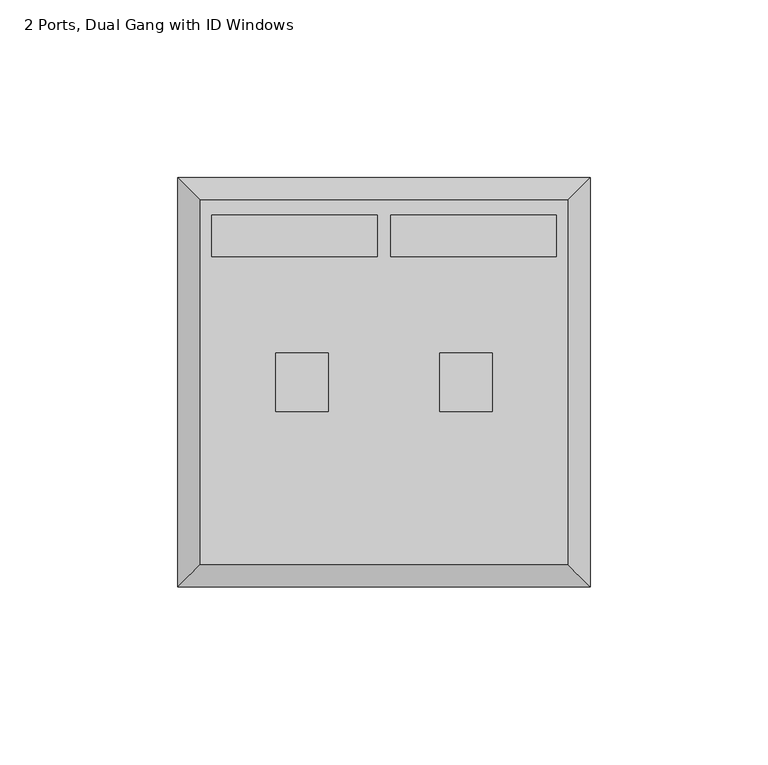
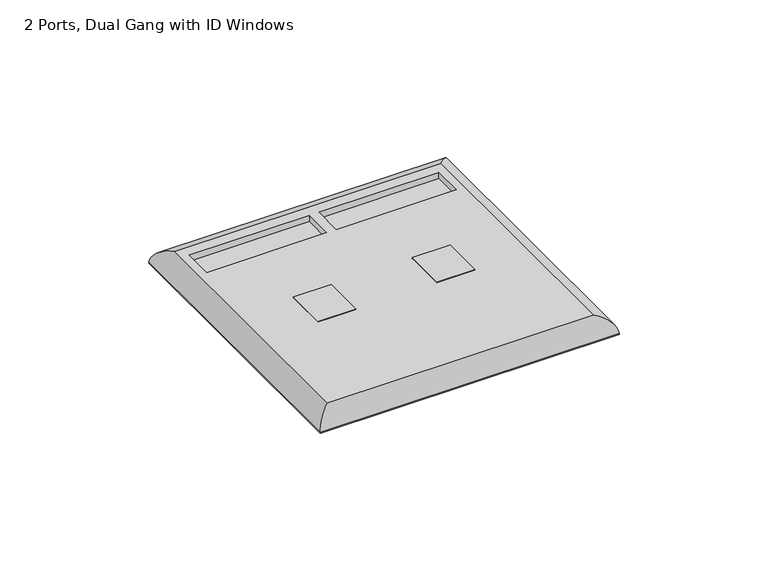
"""IFC4 building model written with IfcOpenShell, lengths in millimetres: electric appliance geometry, Data_Device-Work_Area-Leviton-QuickPort-Wallplate : 2 Ports, Dual Gang with ID Windows."""

from ifc_helpers import new_model, si_unit, frame, origin, origin_with_axes, place, context, project, spatial, polyline, ellipse_curve, outline, extrude, source, transform, mapped, element, save
from ifc_brep_helpers import plane_surface, cylinder_surface, advanced_brep


def electric_appliance_2_ports_dual_gang_with_id_windows_aa394248(model_context):
    return source(origin(), model_context, "Body", "SolidModel", [
        extrude(outline(polyline([(-38.6842, 16.4465), (-38.6842, -0.0635), (-53.4162, -0.0635), (-53.4162, 16.4465), (-38.6842, 16.4465)])), origin_with_axes(), (0.0, 0.0, 1.0), 6.35),
        extrude(outline(polyline([(7.366, 16.4465), (7.366, -0.0635), (-7.366, -0.0635), (-7.366, 16.4465), (7.366, 16.4465)])), origin_with_axes(), (0.0, 0.0, 1.0), 6.35),
        advanced_brep(
        [(28.575, -42.9895, 6.35), (28.575, 59.3725, 6.35), (-74.6252, 59.3725, 6.35), (-74.6252, -42.9895, 6.35), (-71.44004, 55.1815, 6.35), (-24.95804, 55.1815, 6.35), (-24.95804, 43.4975, 6.35), (-71.44004, 43.4975, 6.35), (-21.09216, 43.4975, 6.35), (-21.09216, 55.1815, 6.35), (25.38984, 55.1815, 6.35), (25.38984, 43.4975, 6.35), (-53.4162, 16.4465, 6.35), (-38.6842, 16.4465, 6.35), (-38.6842, -0.0635, 6.35), (-53.4162, -0.0635, 6.35), (-7.366, 16.4465, 6.35), (7.366, 16.4465, 6.35), (7.366, -0.0635, 6.35), (-7.366, -0.0635, 6.35), (34.925, 65.7225, 0.0), (34.925, -49.3395, 0.0), (-80.9752, -49.3395, 0.0), (-80.9752, 65.7225, 0.0), (-38.6842, 16.4465, 0.0), (-53.4162, 16.4465, 0.0), (-53.4162, -0.0635, 0.0), (-38.6842, -0.0635, 0.0), (7.366, 16.4465, 0.0), (-7.366, 16.4465, 0.0), (-7.366, -0.0635, 0.0), (7.366, -0.0635, 0.0), (-80.9752, 65.7225, 0.254), (34.925, 65.7225, 0.254), (-80.9752, -49.3395, 0.254), (34.925, -49.3395, 0.254), (-24.95804, 55.1815, 3.81), (-71.44004, 55.1815, 3.81), (-71.44004, 43.4975, 3.81), (-24.95804, 43.4975, 3.81), (-21.09216, 55.1815, 3.81), (-21.09216, 43.4975, 3.81), (25.38984, 43.4975, 3.81), (25.38984, 55.1815, 3.81)],
        [
            (0, 1),
            (1, 2),
            (2, 3),
            (3, 0),
            (4, 5),
            (5, 6),
            (6, 7),
            (7, 4),
            (8, 9),
            (9, 10),
            (10, 11),
            (11, 8),
            (12, 13),
            (13, 14),
            (14, 15),
            (15, 12),
            (16, 17),
            (17, 18),
            (18, 19),
            (19, 16),
            (20, 21),
            (21, 22),
            (22, 23),
            (23, 20),
            (24, 25),
            (25, 26),
            (26, 27),
            (27, 24),
            (28, 29),
            (29, 30),
            (30, 31),
            (31, 28),
            (23, 32),
            (32, 33),
            (33, 20),
            (22, 34),
            (34, 32),
            (21, 35),
            (35, 34),
            (33, 35),
            (36, 37),
            (37, 38),
            (38, 39),
            (39, 36),
            (40, 41),
            (41, 42),
            (42, 43),
            (43, 40),
            (36, 5),
            (4, 37),
            (7, 38),
            (6, 39),
            (40, 9),
            (8, 41),
            (11, 42),
            (10, 43),
            (12, 25),
            (24, 13),
            (15, 26),
            (14, 27),
            (16, 29),
            (28, 17),
            (19, 30),
            (18, 31),
            (0, 35, ellipse_curve(frame((28.575, -42.9895, -0.0052917), z_axis=(0.7071067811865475, 0.7071067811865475, 0.0), x_axis=(0.7071067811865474, -0.7071067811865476, 0.0)), 8.9877397, 6.3552917)),
            (33, 1, ellipse_curve(frame((28.575, 59.3725, -0.0052917), z_axis=(0.7071067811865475, -0.7071067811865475, 0.0), x_axis=(-0.7071067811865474, -0.7071067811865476, 0.0)), 8.9877397, 6.3552917)),
            (3, 34, ellipse_curve(frame((-74.6252, -42.9895, -0.0052917), z_axis=(0.7071067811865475, -0.7071067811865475, 0.0), x_axis=(-0.7071067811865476, -0.7071067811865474, 0.0)), 8.9877397, 6.3552917)),
            (2, 32, ellipse_curve(frame((-74.6252, 59.3725, -0.0052917), z_axis=(-0.7071067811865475, -0.7071067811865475, 0.0), x_axis=(-0.7071067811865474, 0.7071067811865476, 0.0)), 8.9877397, 6.3552917)),
        ],
        [
            plane_surface(frame((-80.9752, 65.7225, 6.35), z_axis=(0.0, 0.0, 1.0), x_axis=(-1.0, 0.0, 0.0))),
            plane_surface(frame((-80.9752, 65.7225, 0.0), z_axis=(0.0, 0.0, -1.0), x_axis=(1.0, 0.0, 0.0))),
            plane_surface(frame((34.925, 65.7225, 6.35), z_axis=(0.0, 1.0, 0.0), x_axis=(0.0, 0.0, -1.0))),
            plane_surface(frame((-80.9752, 65.7225, 6.35), z_axis=(-1.0, 0.0, 0.0), x_axis=(0.0, 0.0, -1.0))),
            plane_surface(frame((-80.9752, -49.3395, 6.35), z_axis=(0.0, -1.0, 0.0), x_axis=(0.0, 0.0, -1.0))),
            plane_surface(frame((34.925, -49.3395, 6.35), z_axis=(1.0, 0.0, 0.0), x_axis=(0.0, 0.0, -1.0))),
            plane_surface(frame((-71.44004, 55.1815, 3.81), z_axis=(0.0, 0.0, 1.0), x_axis=(1.0, 0.0, 0.0))),
            plane_surface(frame((-24.95804, 55.1815, 6.35), z_axis=(0.0, -1.0, 0.0), x_axis=(0.0, 0.0, -1.0))),
            plane_surface(frame((-71.44004, 55.1815, 6.35), z_axis=(1.0, 0.0, 0.0), x_axis=(0.0, 0.0, -1.0))),
            plane_surface(frame((-71.44004, 43.4975, 6.35), z_axis=(0.0, 1.0, 0.0), x_axis=(0.0, 0.0, -1.0))),
            plane_surface(frame((-24.95804, 43.4975, 6.35), z_axis=(-1.0, 0.0, 0.0), x_axis=(0.0, 0.0, -1.0))),
            plane_surface(frame((-21.09216, 55.1815, 6.35), z_axis=(1.0, 0.0, 0.0), x_axis=(0.0, 0.0, -1.0))),
            plane_surface(frame((-21.09216, 43.4975, 6.35), z_axis=(0.0, 1.0, 0.0), x_axis=(0.0, 0.0, -1.0))),
            plane_surface(frame((25.38984, 43.4975, 6.35), z_axis=(-1.0, 0.0, 0.0), x_axis=(0.0, 0.0, -1.0))),
            plane_surface(frame((25.38984, 55.1815, 6.35), z_axis=(0.0, -1.0, 0.0), x_axis=(0.0, 0.0, -1.0))),
            plane_surface(frame((-38.6842, 16.4465, 6.35), z_axis=(0.0, -1.0, 0.0), x_axis=(0.0, 0.0, -1.0))),
            plane_surface(frame((-53.4162, 16.4465, 6.35), z_axis=(1.0, 0.0, 0.0), x_axis=(0.0, 0.0, -1.0))),
            plane_surface(frame((-53.4162, -0.0635, 6.35), z_axis=(0.0, 1.0, 0.0), x_axis=(0.0, 0.0, -1.0))),
            plane_surface(frame((-38.6842, -0.0635, 6.35), z_axis=(-1.0, 0.0, 0.0), x_axis=(0.0, 0.0, -1.0))),
            plane_surface(frame((7.366, 16.4465, 6.35), z_axis=(0.0, -1.0, 0.0), x_axis=(0.0, 0.0, -1.0))),
            plane_surface(frame((-7.366, 16.4465, 6.35), z_axis=(1.0, 0.0, 0.0), x_axis=(0.0, 0.0, -1.0))),
            plane_surface(frame((-7.366, -0.0635, 6.35), z_axis=(0.0, 1.0, 0.0), x_axis=(0.0, 0.0, -1.0))),
            plane_surface(frame((7.366, -0.0635, 6.35), z_axis=(-1.0, 0.0, 0.0), x_axis=(0.0, 0.0, -1.0))),
            cylinder_surface(frame((28.575, 65.7225, -0.0052917), z_axis=(0.0, -1.0, 0.0), x_axis=(1.0, 0.0, 0.0)), 6.3552917),
            cylinder_surface(frame((34.925, -42.9895, -0.0052917), z_axis=(-1.0, 0.0, 0.0), x_axis=(0.0, -1.0, 0.0)), 6.3552917),
            cylinder_surface(frame((-74.6252, -49.3395, -0.0052917), z_axis=(0.0, 1.0, 0.0), x_axis=(-1.0, 0.0, 0.0)), 6.3552917),
            cylinder_surface(frame((-80.9752, 59.3725, -0.0052917), z_axis=(1.0, 0.0, 0.0), x_axis=(0.0, 1.0, 0.0)), 6.3552917),
        ],
        [
            (0, [[1, 2, 3, 4], [5, 6, 7, 8], [9, 10, 11, 12], [13, 14, 15, 16], [17, 18, 19, 20]]),
            (1, [[21, 22, 23, 24], [25, 26, 27, 28], [29, 30, 31, 32]]),
            (2, [[-24, 33, 34, 35]]),
            (3, [[-23, 36, 37, -33]]),
            (4, [[-22, 38, 39, -36]]),
            (5, [[-21, -35, 40, -38]]),
            (6, [[41, 42, 43, 44]]),
            (6, [[45, 46, 47, 48]]),
            (7, [[-41, 49, -5, 50]]),
            (8, [[-42, -50, -8, 51]]),
            (9, [[-43, -51, -7, 52]]),
            (10, [[-44, -52, -6, -49]]),
            (11, [[-45, 53, -9, 54]]),
            (12, [[-46, -54, -12, 55]]),
            (13, [[-47, -55, -11, 56]]),
            (14, [[-48, -56, -10, -53]]),
            (15, [[57, -25, 58, -13]]),
            (16, [[-57, -16, 59, -26]]),
            (17, [[-59, -15, 60, -27]]),
            (18, [[-58, -28, -60, -14]]),
            (19, [[61, -29, 62, -17]]),
            (20, [[-61, -20, 63, -30]]),
            (21, [[-63, -19, 64, -31]]),
            (22, [[-62, -32, -64, -18]]),
            (23, [[65, -40, 66, -1]]),
            (24, [[-65, -4, 67, -39]]),
            (25, [[-67, -3, 68, -37]]),
            (26, [[-66, -34, -68, -2]]),
        ],
    ),
        extrude(outline(polyline([(34.671, 65.4685), (34.671, -49.0855), (-80.7212, -49.0855), (-80.7212, 65.4685), (34.671, 65.4685)])), origin_with_axes(), (0.0, 0.0, 1.0), 0.254),
    ])


if __name__ == "__main__":
    model = new_model("IFC4")
    model_context = context("Model", 3, world=origin())
    ifc_project = project(units=[si_unit("LENGTHUNIT", "METRE", prefix="MILLI")], contexts=[model_context])
    site = spatial("IfcSite", under=ifc_project)
    building = spatial("IfcBuilding", under=site)
    placement = place(None, origin())
    electric_appliance_2_ports_dual_gang_with_id_windows_shape = electric_appliance_2_ports_dual_gang_with_id_windows_aa394248(model_context)
    element("IfcElectricAppliance", 1, ObjectType="Data_Device-Work_Area-Leviton-QuickPort-Wallplate : 2 Ports, Dual Gang with ID Windows", at=placement, inside=building, context=model_context, shape_type="MappedRepresentation", body=[
        mapped(electric_appliance_2_ports_dual_gang_with_id_windows_shape, transform((0.0, 0.0, 0.0), x_axis=(1.0, 0.0, 0.0), y_axis=(0.0, 1.0, 0.0), z_axis=(0.0, 0.0, 1.0))),
    ])
    save(model, "model.ifc")
